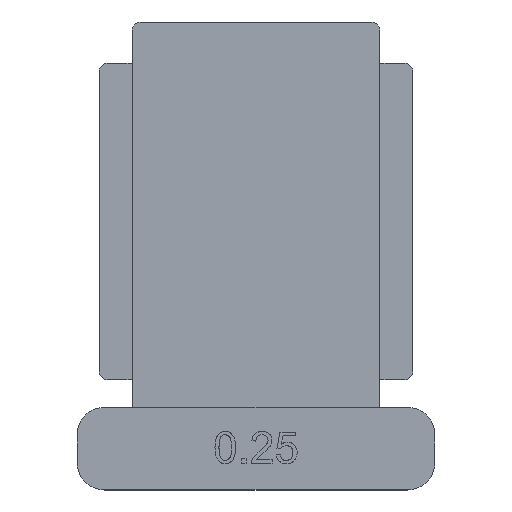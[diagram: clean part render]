
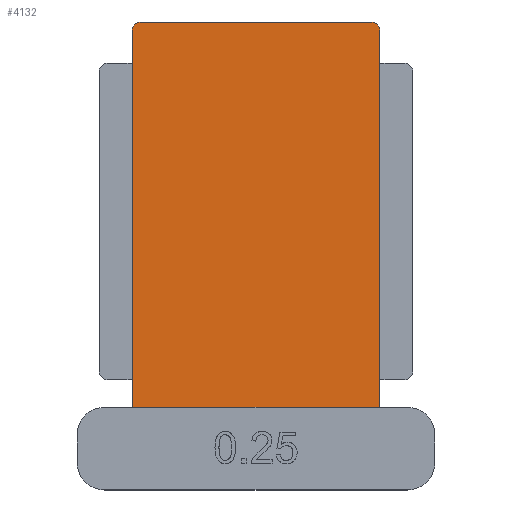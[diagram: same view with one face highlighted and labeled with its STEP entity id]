
A CAD part, top view. The second image highlights one B-rep face of the part: STEP entity #4132.
In plain terms, the highlighted planar face has unit normal (0, 0, 1).
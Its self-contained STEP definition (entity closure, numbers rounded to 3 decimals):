
#209 = PLANE('',#210);
#210 = AXIS2_PLACEMENT_3D('',#211,#212,#213);
#211 = CARTESIAN_POINT('',(13.,-13.5,0.));
#212 = DIRECTION('',(0.,-1.,0.));
#213 = DIRECTION('',(-1.,0.,0.));
#237 = PLANE('',#238);
#238 = AXIS2_PLACEMENT_3D('',#239,#240,#241);
#239 = CARTESIAN_POINT('',(9.,-14.5,0.));
#240 = DIRECTION('',(-1.,0.,0.));
#241 = DIRECTION('',(0.,1.,0.));
#431 = CYLINDRICAL_SURFACE('',#432,0.6);
#432 = AXIS2_PLACEMENT_3D('',#433,#434,#435);
#433 = CARTESIAN_POINT('',(8.4,13.9,0.));
#434 = DIRECTION('',(0.,0.,1.));
#435 = DIRECTION('',(1.,0.,-0.));
#459 = PLANE('',#460);
#460 = AXIS2_PLACEMENT_3D('',#461,#462,#463);
#461 = CARTESIAN_POINT('',(9.,14.5,0.));
#462 = DIRECTION('',(0.,-1.,0.));
#463 = DIRECTION('',(-1.,0.,0.));
#488 = CYLINDRICAL_SURFACE('',#489,0.6);
#489 = AXIS2_PLACEMENT_3D('',#490,#491,#492);
#490 = CARTESIAN_POINT('',(-8.4,13.9,0.));
#491 = DIRECTION('',(0.,0.,1.));
#492 = DIRECTION('',(-0.,1.,0.));
#516 = PLANE('',#517);
#517 = AXIS2_PLACEMENT_3D('',#518,#519,#520);
#518 = CARTESIAN_POINT('',(-9.,14.5,0.));
#519 = DIRECTION('',(1.,0.,-0.));
#520 = DIRECTION('',(0.,-1.,0.));
#1006 = VERTEX_POINT('',#1007);
#1007 = CARTESIAN_POINT('',(-9.,-13.5,3.36));
#1026 = EDGE_CURVE('',#1006,#1027,#1029,.T.);
#1027 = VERTEX_POINT('',#1028);
#1028 = CARTESIAN_POINT('',(9.,-13.5,3.36));
#1029 = SURFACE_CURVE('',#1030,(#1034,#1040),.PCURVE_S1.);
#1030 = LINE('',#1031,#1032);
#1031 = CARTESIAN_POINT('',(6.5,-13.5,3.36));
#1032 = VECTOR('',#1033,1.);
#1033 = DIRECTION('',(1.,0.,-0.));
#1034 = PCURVE('',#209,#1035);
#1035 = DEFINITIONAL_REPRESENTATION('',(#1036),#1039);
#1036 = B_SPLINE_CURVE_WITH_KNOTS('',1,(#1037,#1038),.UNSPECIFIED.,.F.,
  .F.,(2,2),(-15.5,2.5),.PIECEWISE_BEZIER_KNOTS.);
#1037 = CARTESIAN_POINT('',(22.,-3.36));
#1038 = CARTESIAN_POINT('',(4.,-3.36));
#1039 = ( GEOMETRIC_REPRESENTATION_CONTEXT(2) 
PARAMETRIC_REPRESENTATION_CONTEXT() REPRESENTATION_CONTEXT('2D SPACE',''
  ) );
#1040 = PCURVE('',#1041,#1046);
#1041 = PLANE('',#1042);
#1042 = AXIS2_PLACEMENT_3D('',#1043,#1044,#1045);
#1043 = CARTESIAN_POINT('',(0.,0.,3.36));
#1044 = DIRECTION('',(0.,0.,1.));
#1045 = DIRECTION('',(1.,0.,-0.));
#1046 = DEFINITIONAL_REPRESENTATION('',(#1047),#1050);
#1047 = B_SPLINE_CURVE_WITH_KNOTS('',1,(#1048,#1049),.UNSPECIFIED.,.F.,
  .F.,(2,2),(-15.5,2.5),.PIECEWISE_BEZIER_KNOTS.);
#1048 = CARTESIAN_POINT('',(-9.,-13.5));
#1049 = CARTESIAN_POINT('',(9.,-13.5));
#1050 = ( GEOMETRIC_REPRESENTATION_CONTEXT(2) 
PARAMETRIC_REPRESENTATION_CONTEXT() REPRESENTATION_CONTEXT('2D SPACE',''
  ) );
#1252 = VERTEX_POINT('',#1253);
#1253 = CARTESIAN_POINT('',(-9.,13.9,3.36));
#1274 = EDGE_CURVE('',#1252,#1006,#1275,.T.);
#1275 = SURFACE_CURVE('',#1276,(#1280,#1287),.PCURVE_S1.);
#1276 = LINE('',#1277,#1278);
#1277 = CARTESIAN_POINT('',(-9.,14.5,3.36));
#1278 = VECTOR('',#1279,1.);
#1279 = DIRECTION('',(0.,-1.,0.));
#1280 = PCURVE('',#516,#1281);
#1281 = DEFINITIONAL_REPRESENTATION('',(#1282),#1286);
#1282 = LINE('',#1283,#1284);
#1283 = CARTESIAN_POINT('',(0.,-3.36));
#1284 = VECTOR('',#1285,1.);
#1285 = DIRECTION('',(1.,0.));
#1286 = ( GEOMETRIC_REPRESENTATION_CONTEXT(2) 
PARAMETRIC_REPRESENTATION_CONTEXT() REPRESENTATION_CONTEXT('2D SPACE',''
  ) );
#1287 = PCURVE('',#1041,#1288);
#1288 = DEFINITIONAL_REPRESENTATION('',(#1289),#1293);
#1289 = LINE('',#1290,#1291);
#1290 = CARTESIAN_POINT('',(-9.,14.5));
#1291 = VECTOR('',#1292,1.);
#1292 = DIRECTION('',(0.,-1.));
#1293 = ( GEOMETRIC_REPRESENTATION_CONTEXT(2) 
PARAMETRIC_REPRESENTATION_CONTEXT() REPRESENTATION_CONTEXT('2D SPACE',''
  ) );
#1368 = EDGE_CURVE('',#1369,#1252,#1371,.T.);
#1369 = VERTEX_POINT('',#1370);
#1370 = CARTESIAN_POINT('',(-8.4,14.5,3.36));
#1371 = SURFACE_CURVE('',#1372,(#1377,#1384),.PCURVE_S1.);
#1372 = CIRCLE('',#1373,0.6);
#1373 = AXIS2_PLACEMENT_3D('',#1374,#1375,#1376);
#1374 = CARTESIAN_POINT('',(-8.4,13.9,3.36));
#1375 = DIRECTION('',(0.,0.,1.));
#1376 = DIRECTION('',(0.,-1.,0.));
#1377 = PCURVE('',#488,#1378);
#1378 = DEFINITIONAL_REPRESENTATION('',(#1379),#1383);
#1379 = LINE('',#1380,#1381);
#1380 = CARTESIAN_POINT('',(-3.142,3.36));
#1381 = VECTOR('',#1382,1.);
#1382 = DIRECTION('',(1.,0.));
#1383 = ( GEOMETRIC_REPRESENTATION_CONTEXT(2) 
PARAMETRIC_REPRESENTATION_CONTEXT() REPRESENTATION_CONTEXT('2D SPACE',''
  ) );
#1384 = PCURVE('',#1041,#1385);
#1385 = DEFINITIONAL_REPRESENTATION('',(#1386),#1390);
#1386 = CIRCLE('',#1387,0.6);
#1387 = AXIS2_PLACEMENT_2D('',#1388,#1389);
#1388 = CARTESIAN_POINT('',(-8.4,13.9));
#1389 = DIRECTION('',(0.,-1.));
#1390 = ( GEOMETRIC_REPRESENTATION_CONTEXT(2) 
PARAMETRIC_REPRESENTATION_CONTEXT() REPRESENTATION_CONTEXT('2D SPACE',''
  ) );
#1418 = VERTEX_POINT('',#1419);
#1419 = CARTESIAN_POINT('',(8.4,14.5,3.36));
#1440 = EDGE_CURVE('',#1418,#1369,#1441,.T.);
#1441 = SURFACE_CURVE('',#1442,(#1446,#1453),.PCURVE_S1.);
#1442 = LINE('',#1443,#1444);
#1443 = CARTESIAN_POINT('',(9.,14.5,3.36));
#1444 = VECTOR('',#1445,1.);
#1445 = DIRECTION('',(-1.,0.,0.));
#1446 = PCURVE('',#459,#1447);
#1447 = DEFINITIONAL_REPRESENTATION('',(#1448),#1452);
#1448 = LINE('',#1449,#1450);
#1449 = CARTESIAN_POINT('',(0.,-3.36));
#1450 = VECTOR('',#1451,1.);
#1451 = DIRECTION('',(1.,0.));
#1452 = ( GEOMETRIC_REPRESENTATION_CONTEXT(2) 
PARAMETRIC_REPRESENTATION_CONTEXT() REPRESENTATION_CONTEXT('2D SPACE',''
  ) );
#1453 = PCURVE('',#1041,#1454);
#1454 = DEFINITIONAL_REPRESENTATION('',(#1455),#1459);
#1455 = LINE('',#1456,#1457);
#1456 = CARTESIAN_POINT('',(9.,14.5));
#1457 = VECTOR('',#1458,1.);
#1458 = DIRECTION('',(-1.,0.));
#1459 = ( GEOMETRIC_REPRESENTATION_CONTEXT(2) 
PARAMETRIC_REPRESENTATION_CONTEXT() REPRESENTATION_CONTEXT('2D SPACE',''
  ) );
#1467 = EDGE_CURVE('',#1468,#1418,#1470,.T.);
#1468 = VERTEX_POINT('',#1469);
#1469 = CARTESIAN_POINT('',(9.,13.9,3.36));
#1470 = SURFACE_CURVE('',#1471,(#1476,#1483),.PCURVE_S1.);
#1471 = CIRCLE('',#1472,0.6);
#1472 = AXIS2_PLACEMENT_3D('',#1473,#1474,#1475);
#1473 = CARTESIAN_POINT('',(8.4,13.9,3.36));
#1474 = DIRECTION('',(0.,0.,1.));
#1475 = DIRECTION('',(0.,-1.,0.));
#1476 = PCURVE('',#431,#1477);
#1477 = DEFINITIONAL_REPRESENTATION('',(#1478),#1482);
#1478 = LINE('',#1479,#1480);
#1479 = CARTESIAN_POINT('',(-1.571,3.36));
#1480 = VECTOR('',#1481,1.);
#1481 = DIRECTION('',(1.,0.));
#1482 = ( GEOMETRIC_REPRESENTATION_CONTEXT(2) 
PARAMETRIC_REPRESENTATION_CONTEXT() REPRESENTATION_CONTEXT('2D SPACE',''
  ) );
#1483 = PCURVE('',#1041,#1484);
#1484 = DEFINITIONAL_REPRESENTATION('',(#1485),#1489);
#1485 = CIRCLE('',#1486,0.6);
#1486 = AXIS2_PLACEMENT_2D('',#1487,#1488);
#1487 = CARTESIAN_POINT('',(8.4,13.9));
#1488 = DIRECTION('',(0.,-1.));
#1489 = ( GEOMETRIC_REPRESENTATION_CONTEXT(2) 
PARAMETRIC_REPRESENTATION_CONTEXT() REPRESENTATION_CONTEXT('2D SPACE',''
  ) );
#1517 = EDGE_CURVE('',#1027,#1468,#1518,.T.);
#1518 = SURFACE_CURVE('',#1519,(#1523,#1530),.PCURVE_S1.);
#1519 = LINE('',#1520,#1521);
#1520 = CARTESIAN_POINT('',(9.,-14.5,3.36));
#1521 = VECTOR('',#1522,1.);
#1522 = DIRECTION('',(0.,1.,0.));
#1523 = PCURVE('',#237,#1524);
#1524 = DEFINITIONAL_REPRESENTATION('',(#1525),#1529);
#1525 = LINE('',#1526,#1527);
#1526 = CARTESIAN_POINT('',(0.,-3.36));
#1527 = VECTOR('',#1528,1.);
#1528 = DIRECTION('',(1.,0.));
#1529 = ( GEOMETRIC_REPRESENTATION_CONTEXT(2) 
PARAMETRIC_REPRESENTATION_CONTEXT() REPRESENTATION_CONTEXT('2D SPACE',''
  ) );
#1530 = PCURVE('',#1041,#1531);
#1531 = DEFINITIONAL_REPRESENTATION('',(#1532),#1536);
#1532 = LINE('',#1533,#1534);
#1533 = CARTESIAN_POINT('',(9.,-14.5));
#1534 = VECTOR('',#1535,1.);
#1535 = DIRECTION('',(0.,1.));
#1536 = ( GEOMETRIC_REPRESENTATION_CONTEXT(2) 
PARAMETRIC_REPRESENTATION_CONTEXT() REPRESENTATION_CONTEXT('2D SPACE',''
  ) );
#4132 = ADVANCED_FACE('',(#4133),#1041,.T.);
#4133 = FACE_BOUND('',#4134,.T.);
#4134 = EDGE_LOOP('',(#4135,#4136,#4137,#4138,#4139,#4140));
#4135 = ORIENTED_EDGE('',*,*,#1274,.T.);
#4136 = ORIENTED_EDGE('',*,*,#1026,.T.);
#4137 = ORIENTED_EDGE('',*,*,#1517,.T.);
#4138 = ORIENTED_EDGE('',*,*,#1467,.T.);
#4139 = ORIENTED_EDGE('',*,*,#1440,.T.);
#4140 = ORIENTED_EDGE('',*,*,#1368,.T.);
